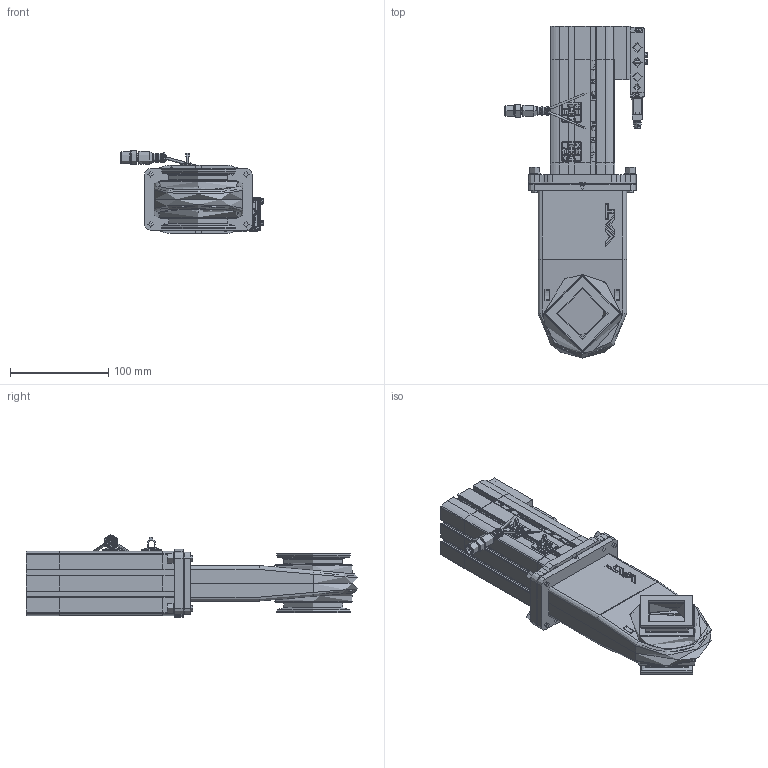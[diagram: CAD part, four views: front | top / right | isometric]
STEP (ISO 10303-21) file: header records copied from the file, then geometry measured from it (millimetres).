
FILE_DESCRIPTION(/* description */ (''),/* implementation_level */ '2;1');
FILE_NAME(/* name */ '1058234981_203.stp',/* time_stamp */ '2021-04-28T12:07:08+02:00',/* author */ (''),/* organization */ (''),/* preprocessor_version */ 'ST-DEVELOPER v16.7',/* originating_system */ 'SIEMENS PLM Software NX 1915',/* authorisation */ '');
FILE_SCHEMA (('AP203_CONFIGURATION_CONTROLLED_3D_DESIGN_OF_MECHANICAL_PARTS_AND_ASSEMBLIES_MIM_LF { 1 0 10303 403 2 1 2}'));
Products named in the file (23): 350432.7_31632ID; 350432.7_31631ID; 350540.2_31607ID; 408099; 990068; 487660; 411636_31661ID; 1033982; 589965; 938048; 351562.6_31595ID; 351562.6_31635ID; 1085547; 984070; 218189; n-6134-408; 351709.1; 350482.2; 1081830_NX-ARRAGMNTDN050/63, Standard v3 ; 1034004_NX-ARRAGMNTCLOSED; 351438.6; 351568.10; 1034052
Assembly tree (32 placements, depth 4):
  1034052
    350482.2
    351709.1
    n-6134-408  x4
    218189  x4
    351568.10
      351562.6_31635ID
      351562.6_31595ID
      351438.6
        350540.2_31607ID
        350432.7_31631ID
        350432.7_31632ID
    1034004_NX-ARRAGMNTCLOSED
      938048
      589965
      1033982
    1081830_NX-ARRAGMNTDN050/63, Standard v3 
      411636_31661ID
      487660  x2
      990068
      408099  x2
    984070  x2
    1085547  x2
Bounding box: 144.85 x 337.35 x 83.9 mm (x, y, z)
Topology: 44 solids, 47 shells, 5103 faces, 13210 edges, 8180 vertices
Faces by surface type: plane 2117, cylinder 1494, bspline 653, cone 382, torus 260, sphere 127, extrusion 58, revolution 12
Full cylindrical faces by diameter (mm): 0.712 x1, 1.45 x1, 1.8 x1, 2.5 x1, 2.8 x2, 2.9 x2, 3 x2, 3.2 x3, 3.7 x1, 3.8 x2, 3.9 x1, 4 x2, 4.154 x1, 4.5 x3, 4.96 x4, 5 x11, 5.05 x2, 5.2 x2, 5.22 x4, 5.5 x2, 5.6 x1, 5.8 x3, 6 x8, 6.25 x2, 6.4 x7, 6.5 x7, 6.6 x2, 6.9 x1, 7.2 x1, 7.4 x2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
Entity records: 193333 total; most frequent: CARTESIAN_POINT 58303, ORIENTED_EDGE 23106, DIRECTION 21023, EDGE_CURVE 11553, AXIS2_PLACEMENT_3D 7738, VERTEX_POINT 7387, VECTOR 5541, LINE 5483
